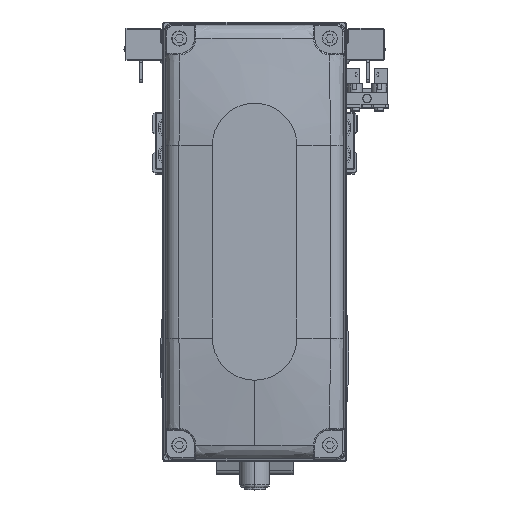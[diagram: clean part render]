
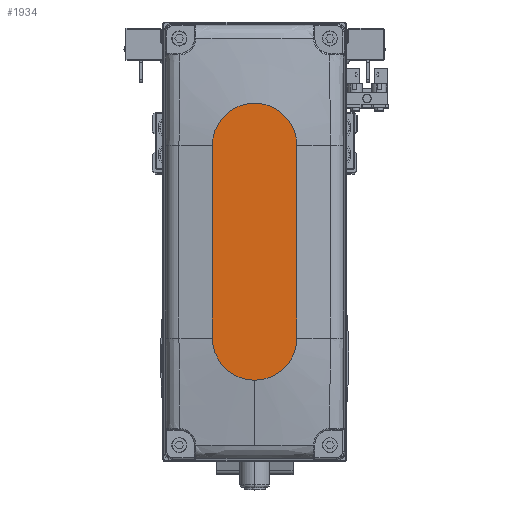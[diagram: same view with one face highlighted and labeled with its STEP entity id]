
A CAD part, top view. The second image highlights one B-rep face of the part: STEP entity #1934.
In plain terms, the highlighted planar face has unit normal (0, 0, 1).
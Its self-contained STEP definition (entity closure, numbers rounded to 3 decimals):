
#288 = EDGE_CURVE ( 'NONE', #30805, #3219, #35717, .T. ) ;
#1084 = ORIENTED_EDGE ( 'NONE', *, *, #288, .T. ) ;
#1934 = ADVANCED_FACE ( 'NONE', ( #21971 ), #35306, .T. ) ;
#2066 = VERTEX_POINT ( 'NONE', #9708 ) ;
#2532 = VECTOR ( 'NONE', #36977, 1000. ) ;
#2625 = EDGE_CURVE ( 'NONE', #2066, #34778, #32992, .T. ) ;
#3219 = VERTEX_POINT ( 'NONE', #22458 ) ;
#3478 = EDGE_CURVE ( 'NONE', #28643, #2066, #24981, .T. ) ;
#4115 = CARTESIAN_POINT ( 'NONE',  ( -32., -14., 35. ) ) ;
#5349 = CARTESIAN_POINT ( 'NONE',  ( 0., 0., 35. ) ) ;
#5530 = DIRECTION ( 'NONE',  ( 0., 0., 1. ) ) ;
#8303 = CARTESIAN_POINT ( 'NONE',  ( -32., 0., 35. ) ) ;
#8360 = DIRECTION ( 'NONE',  ( -1., 0., 0. ) ) ;
#8605 = VECTOR ( 'NONE', #8360, 1000. ) ;
#9708 = CARTESIAN_POINT ( 'NONE',  ( -32., 14., 35. ) ) ;
#10310 = LINE ( 'NONE', #23650, #2532 ) ;
#11366 = DIRECTION ( 'NONE',  ( 0., 0., 1. ) ) ;
#11850 = ORIENTED_EDGE ( 'NONE', *, *, #3478, .T. ) ;
#13268 = ORIENTED_EDGE ( 'NONE', *, *, #38208, .T. ) ;
#14150 = AXIS2_PLACEMENT_3D ( 'NONE', #8303, #21641, #34977 ) ;
#14484 = CARTESIAN_POINT ( 'NONE',  ( 32., -14., 35. ) ) ;
#16890 = AXIS2_PLACEMENT_3D ( 'NONE', #41289, #11366, #24709 ) ;
#18560 = ORIENTED_EDGE ( 'NONE', *, *, #2625, .T. ) ;
#18642 = EDGE_LOOP ( 'NONE', ( #11850, #18560, #26519, #1084, #13268 ) ) ;
#18688 = DIRECTION ( 'NONE',  ( 0., 0., 1. ) ) ;
#18873 = DIRECTION ( 'NONE',  ( 1., 0., 0. ) ) ;
#20059 = CARTESIAN_POINT ( 'NONE',  ( 32., 14., 35. ) ) ;
#21641 = DIRECTION ( 'NONE',  ( 0., 0., 1. ) ) ;
#21971 = FACE_OUTER_BOUND ( 'NONE', #18642, .T. ) ;
#22364 = AXIS2_PLACEMENT_3D ( 'NONE', #35482, #5530, #18873 ) ;
#22458 = CARTESIAN_POINT ( 'NONE',  ( 46., 0., 35. ) ) ;
#22468 = AXIS2_PLACEMENT_3D ( 'NONE', #5349, #18688, #32011 ) ;
#23650 = CARTESIAN_POINT ( 'NONE',  ( -32., -14., 35. ) ) ;
#24709 = DIRECTION ( 'NONE',  ( 1., 0., 0. ) ) ;
#24981 = LINE ( 'NONE', #38305, #8605 ) ;
#26519 = ORIENTED_EDGE ( 'NONE', *, *, #35378, .T. ) ;
#28643 = VERTEX_POINT ( 'NONE', #20059 ) ;
#30805 = VERTEX_POINT ( 'NONE', #14484 ) ;
#32011 = DIRECTION ( 'NONE',  ( 1., 0., 0. ) ) ;
#32992 = CIRCLE ( 'NONE', #14150, 14. ) ;
#34778 = VERTEX_POINT ( 'NONE', #4115 ) ;
#34977 = DIRECTION ( 'NONE',  ( 1., 0., 0. ) ) ;
#35306 = PLANE ( 'NONE',  #22468 ) ;
#35378 = EDGE_CURVE ( 'NONE', #34778, #30805, #10310, .T. ) ;
#35482 = CARTESIAN_POINT ( 'NONE',  ( 32., 0., 35. ) ) ;
#35717 = CIRCLE ( 'NONE', #16890, 14. ) ;
#36977 = DIRECTION ( 'NONE',  ( 1., 0., 0. ) ) ;
#38208 = EDGE_CURVE ( 'NONE', #3219, #28643, #41205, .T. ) ;
#38305 = CARTESIAN_POINT ( 'NONE',  ( -32., 14., 35. ) ) ;
#41205 = CIRCLE ( 'NONE', #22364, 14. ) ;
#41289 = CARTESIAN_POINT ( 'NONE',  ( 32., 0., 35. ) ) ;
